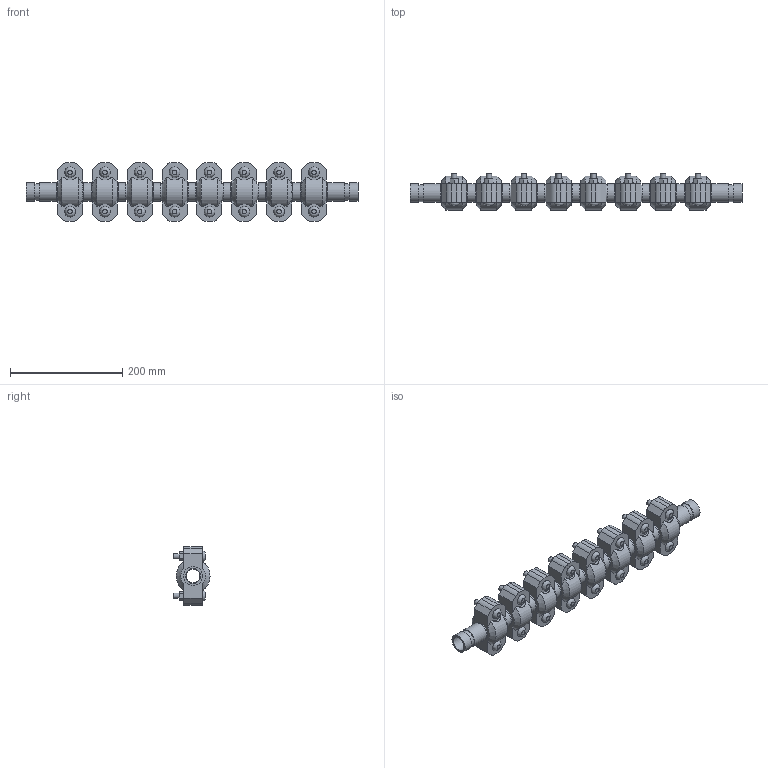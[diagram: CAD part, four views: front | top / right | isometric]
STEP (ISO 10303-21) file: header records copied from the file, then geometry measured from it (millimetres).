
FILE_DESCRIPTION(/* description */ ('VIC EXPANSION JOINT 8 COUPLINGS EXPANDED STYLE 155 (OGS)','CAx-IF Rec.Pracs.---Representation and Presentation of Product Manufacturing Information (PMI)---4.0---2014-10-13'),/* implementation_level */ '2;1');
FILE_NAME(/* name */ 'C:\Users\kkamble\AppData\Roaming\Autodesk\ApplicationPlugins\Victaulic.Temp\A413\Victaulic_IPS_Expansion Joint_Expanded_8 Couplings_Style 155 (OGS)_1 (25).stp',/* time_stamp */ '2021-06-27T00:08:32+02:00',/* author */ ('kkamble'),/* organization */ ('Victaulic'),/* preprocessor_version */ 'ST-DEVELOPER v17.2',/* originating_system */ 'Autodesk Inventor 2019',/* authorisation */ '');
FILE_SCHEMA (('AP242_MANAGED_MODEL_BASED_3D_ENGINEERING_MIM_LF { 1 0 10303 442 1 1 4 }'));
Length unit declared in the file: inch
Products named in the file (4): 155-01.0; Nipple-01.0; Nipple-01.0_1; 077-01.0
Assembly tree (17 placements, depth 2):
  155-01.0
    Nipple-01.0  x2
    Nipple-01.0_1  x7
    077-01.0  x8
Bounding box: 590.55 x 64.33 x 104.65 mm (x, y, z)
Volume: 1328351 mm3; surface area: 354193.6 mm2
Topology: 17 solids, 33 shells, 596 faces, 1430 edges, 1000 vertices
Faces by surface type: plane 342, cylinder 206, cone 32, bspline 16
Full cylindrical faces by diameter (mm): 9.525 x32, 11.43 x16, 24.511 x8, 26.645 x9, 30.226 x18, 33.401 x43
Entity records: 3033 total; most frequent: CARTESIAN_POINT 577, DIRECTION 497, ORIENTED_EDGE 410, EDGE_CURVE 205, AXIS2_PLACEMENT_3D 200, VERTEX_POINT 146, EDGE_LOOP 111, LINE 97
